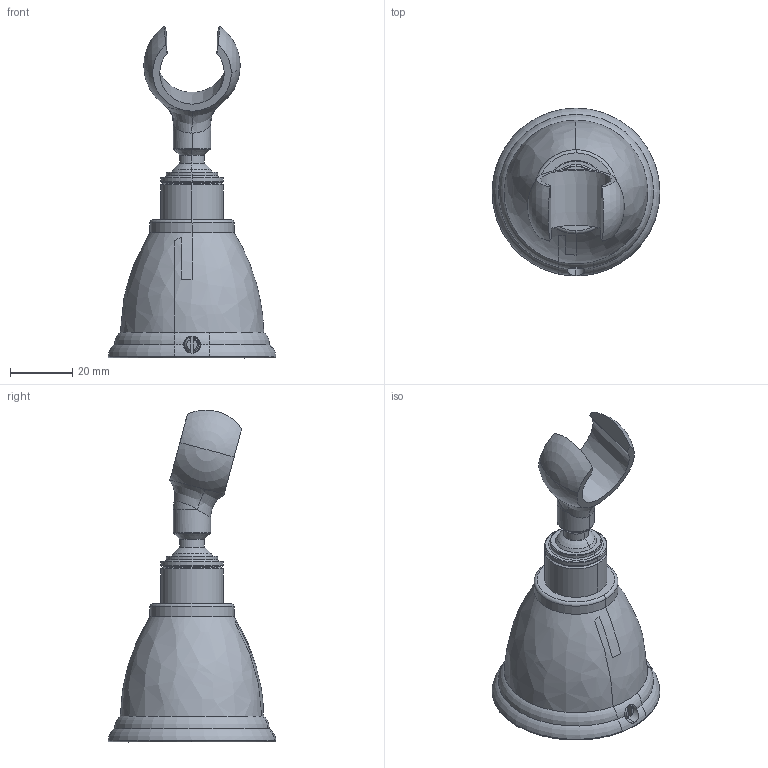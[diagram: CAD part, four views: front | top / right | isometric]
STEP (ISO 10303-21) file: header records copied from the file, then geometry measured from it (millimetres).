
FILE_DESCRIPTION((''),'2;1');
FILE_NAME('76611_IGS_SOLEX_SW0001','2026-10-06T13:44:22',('simi1'),(''),'CREO PARAMETRIC BY PTC INC, 2022244','CREO PARAMETRIC BY PTC INC, 2022244','');
FILE_SCHEMA(('CONFIG_CONTROL_DESIGN'));
Length unit declared in the file: millimetre
Products named in the file (1): 76611_IGS_SOLEX_SW0001
Bounding box: 53.94 x 53.94 x 106.61 mm (x, y, z)
Surface area: 14397.4 mm2 (no closed solid volume)
Topology: 0 solids, 7 shells, 89 faces, 243 edges, 150 vertices
Faces by surface type: torus 23, bspline 18, cylinder 16, plane 14, sphere 10, cone 8
Entity records: 7756 total; most frequent: CARTESIAN_POINT 5694, ORIENTED_EDGE 432, DIRECTION 396, EDGE_CURVE 235, AXIS2_PLACEMENT_3D 180, VERTEX_POINT 150, CIRCLE 109, B_SPLINE_CURVE_WITH_KNOTS 90
